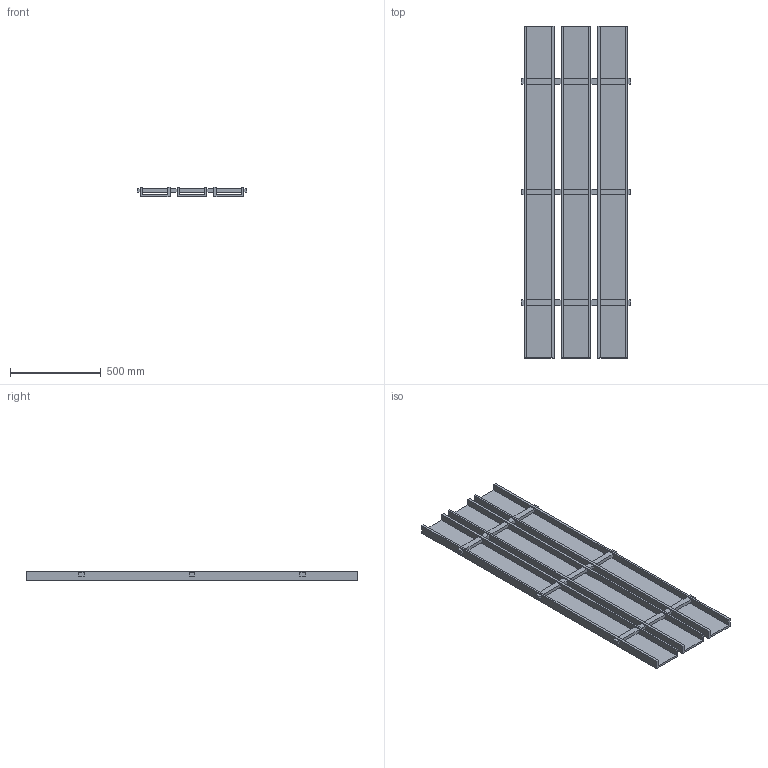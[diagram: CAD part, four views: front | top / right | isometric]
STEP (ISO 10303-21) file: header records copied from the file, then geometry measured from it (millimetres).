
FILE_DESCRIPTION(/* description */ (''),/* implementation_level */ '2;1');
FILE_NAME(/* name */ 'PET GRILLA_6.5x2_6ft',/* time_stamp */ '2024-10-15T14:22:31-05:00',/* author */ (''),/* organization */ (''),/* preprocessor_version */ 'ST-DEVELOPER v19.2',/* originating_system */ 'Rhino 8.4',/* authorisation */ '');
FILE_SCHEMA (('CONFIG_CONTROL_DESIGN'));
Length unit declared in the file: inch
Products named in the file (1): Document
Bounding box: 603.25 x 1828.8 x 50.8 mm (x, y, z)
Volume: 17769466.5 mm3; surface area: 2947978 mm2
Topology: 1 solids, 1 shells, 120 faces, 324 edges, 216 vertices
Faces by surface type: plane 120
Entity records: 3384 total; most frequent: CARTESIAN_POINT 986, ORIENTED_EDGE 648, EDGE_CURVE 324, B_SPLINE_CURVE_WITH_KNOTS 324, VERTEX_POINT 216, EDGE_LOOP 156, DIRECTION 124, AXIS2_PLACEMENT_3D 122
